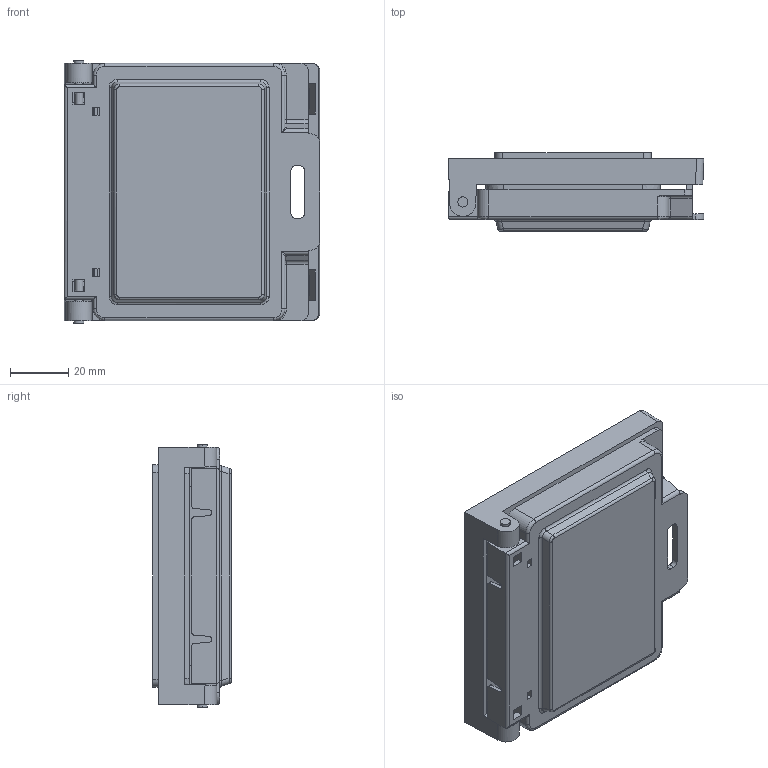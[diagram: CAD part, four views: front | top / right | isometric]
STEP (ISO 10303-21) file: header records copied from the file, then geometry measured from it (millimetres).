
FILE_DESCRIPTION (( 'STEP AP214' ), '1' );
FILE_NAME ('4.110.STEP', '2016-09-30T11:25:23', ( '' ), ( '' ), 'SwSTEP 2.0', 'SolidWorks 2015', '' );
FILE_SCHEMA (( 'AUTOMOTIVE_DESIGN' ));
Length unit declared in the file: millimetre
Products named in the file (4): 4.110.03_A; 4.110.01_A; 4.110; 4.110.02_A
Assembly tree (4 placements, depth 2):
  4.110
    4.110.01_A
    4.110.03_A  x2
    4.110.02_A
Bounding box: 88 x 27 x 90.6 mm (x, y, z)
Volume: 53445.3 mm3; surface area: 57851 mm2
Topology: 5 solids, 5 shells, 648 faces, 1797 edges, 1160 vertices
Faces by surface type: plane 326, cylinder 262, bspline 44, cone 16
Entity records: 22809 total; most frequent: CARTESIAN_POINT 6148, ORIENTED_EDGE 3550, DIRECTION 3393, EDGE_CURVE 1775, LINE 1157, VECTOR 1157, VERTEX_POINT 1148, AXIS2_PLACEMENT_3D 1118
